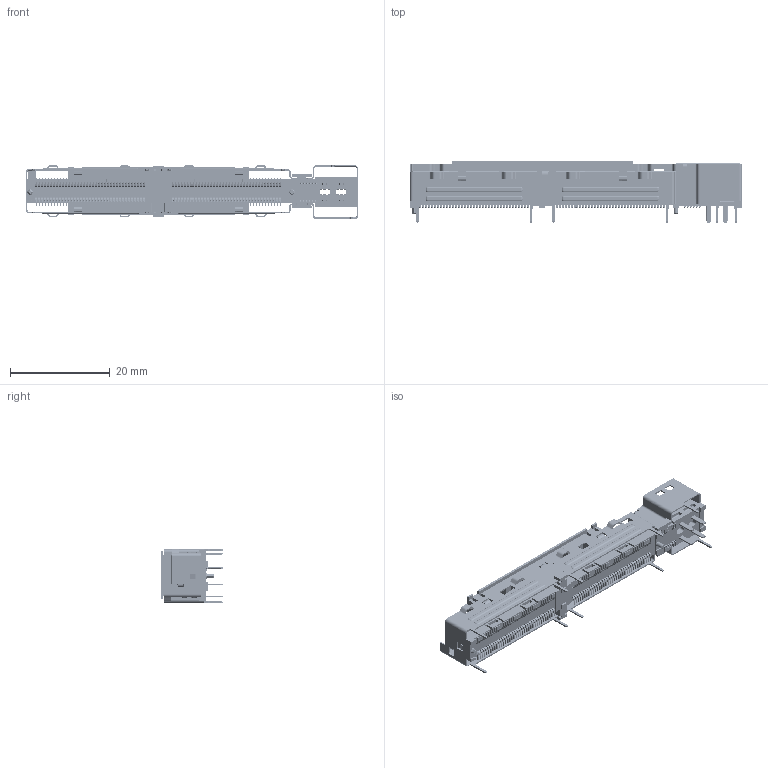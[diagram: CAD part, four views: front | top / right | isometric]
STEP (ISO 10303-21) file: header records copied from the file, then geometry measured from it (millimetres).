
FILE_DESCRIPTION((''),'2;1');
FILE_NAME('PMT164-5502-P04-1H','2025-08-20T08:40:08',('12824382'),(''),'CREO PARAMETRIC BY PTC INC, 2019471','CREO PARAMETRIC BY PTC INC, 2019471','');
FILE_SCHEMA(('AUTOMOTIVE_DESIGN { 1 0 10303 214 1 1 1 1 }'));
Products named in the file (1): PMT164-5502-P04-1H
Bounding box: 66.6 x 12.4 x 10.8 mm (x, y, z)
Volume: 2405.2 mm3; surface area: 8264.3 mm2
Topology: 1 solids, 1 shells, 11878 faces, 34645 edges, 22943 vertices
Faces by surface type: plane 7969, cylinder 3697, sphere 84, bspline 64, torus 50, cone 14
Entity records: 394857 total; most frequent: CARTESIAN_POINT 75452, ORIENTED_EDGE 69114, DIRECTION 64082, EDGE_CURVE 34557, VECTOR 26162, LINE 26162, VERTEX_POINT 22943, AXIS2_PLACEMENT_3D 18960
